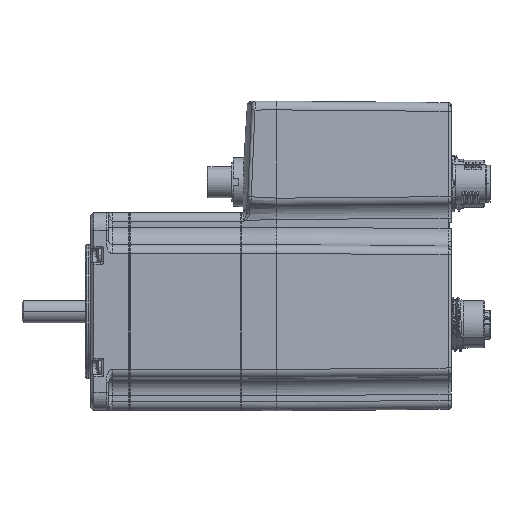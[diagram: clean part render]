
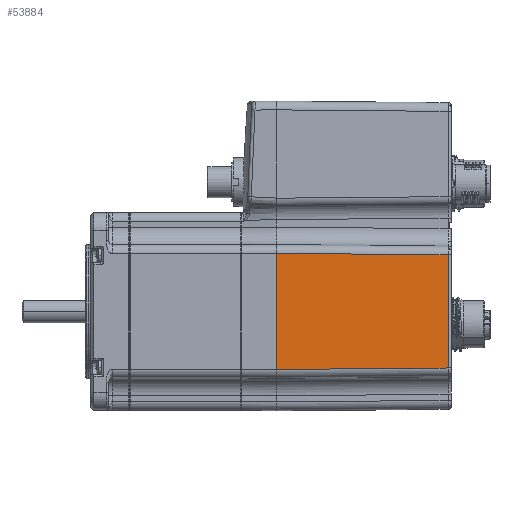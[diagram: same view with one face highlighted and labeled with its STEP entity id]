
A CAD part, top view. The second image highlights one B-rep face of the part: STEP entity #53884.
In plain terms, the highlighted planar face has unit normal (0.009, 0, 1) as drawn and (0, 1, -0.009) by its records, which use the part's own axes.
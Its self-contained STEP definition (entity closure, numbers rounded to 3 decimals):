
#18429=CARTESIAN_POINT('',(-16.587,28.337,
-53.));
#18458=CARTESIAN_POINT('',(-16.16,27.91,
-102.009));
#18494=DIRECTION('',(-1.,0.,0.));
#18495=VECTOR('',#18494,32.319);
#18496=CARTESIAN_POINT('',(16.16,27.91,
-102.009));
#18497=LINE('',#18496,#18495);
#20028=DIRECTION('',(-1.,0.,0.));
#20029=VECTOR('',#20028,33.175);
#20030=CARTESIAN_POINT('',(16.587,28.337,
-53.));
#20031=LINE('',#20030,#20029);
#20056=DIRECTION('',(0.009,-0.009,-1.));
#20057=VECTOR('',#20056,49.012);
#20058=CARTESIAN_POINT('',(-16.587,28.337,
-53.));
#20059=LINE('',#20058,#20057);
#20063=DIRECTION('',(0.009,0.009,1.));
#20064=VECTOR('',#20063,49.012);
#20065=CARTESIAN_POINT('',(16.16,27.91,
-102.009));
#20066=LINE('',#20065,#20064);
#20070=CARTESIAN_POINT('',(16.16,27.91,
-102.009));
#42695=VERTEX_POINT('',#18458);
#42696=VERTEX_POINT('',#20070);
#42862=VERTEX_POINT('',#18429);
#42863=CARTESIAN_POINT('',(16.587,28.337,
-53.));
#42864=VERTEX_POINT('',#42863);
#53872=CARTESIAN_POINT('',(0.,28.123,-77.504));
#53873=DIRECTION('',(0.,1.,-0.009));
#53874=DIRECTION('',(0.,-0.009,-1.));
#53875=AXIS2_PLACEMENT_3D('',#53872,#53873,#53874);
#53876=PLANE('',#53875);
#53877=ORIENTED_EDGE('',*,*,#53851,.T.);
#53878=ORIENTED_EDGE('',*,*,#50065,.T.);
#53879=ORIENTED_EDGE('',*,*,#50242,.F.);
#53881=ORIENTED_EDGE('',*,*,#53880,.T.);
#53882=EDGE_LOOP('',(#53877,#53878,#53879,#53881));
#53883=FACE_OUTER_BOUND('',#53882,.F.);
#50065=EDGE_CURVE('',#42862,#42695,#20059,.T.);
#50242=EDGE_CURVE('',#42696,#42695,#18497,.T.);
#53851=EDGE_CURVE('',#42864,#42862,#20031,.T.);
#53880=EDGE_CURVE('',#42696,#42864,#20066,.T.);
#53884=ADVANCED_FACE('',(#53883),#53876,.T.);
